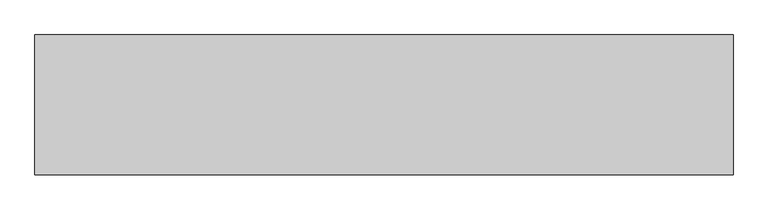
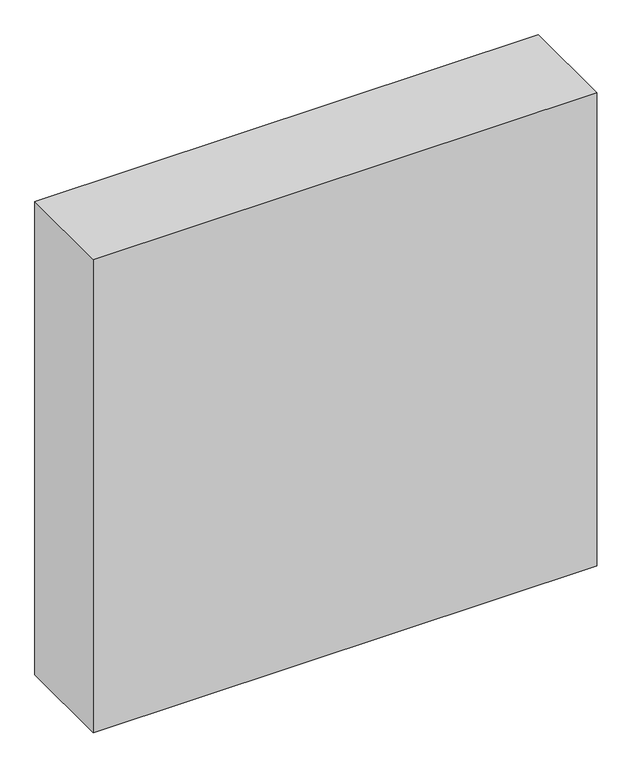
"""IFC4 building model written with IfcOpenShell, lengths in millimetres: proxy geometry, .Roupeiro de aço 2 : .Roupeiro de aço 1."""

import ifcopenshell
import ifcopenshell.guid

model = None  # the IFC model being written
_history = None  # IfcOwnerHistory: only IFC2X3 demands one
_inside = {}  # id of a spatial element -> (the spatial element, [elements in it])
_under = {}  # id of a project, library or spatial element -> (it, [spatial elements below it])
_declared = {}  # id of a project -> (the project, [libraries it declares])
_typed = {}  # id of a type object -> (the type object, [elements of that type])
_made_of = {}  # id of a material, layer set ... -> (it, [elements and type objects made of it])


def new_model(schema):
    """Start an empty IFC model of exactly this schema.

    Asked for "IFC4X3", IfcOpenShell would pick the latest addendum, in which some entities
    have other attributes; the version numbers below select the first issue.
    IFC2X3 requires an IfcOwnerHistory on every rooted entity: one is made here for all.
    """
    global model, _history
    if schema == "IFC4X3":
        model = ifcopenshell.file(schema_version=(4, 3, 0, 0))
    else:
        model = ifcopenshell.file(schema=schema)
    _inside.clear()
    _under.clear()
    _declared.clear()
    _typed.clear()
    _made_of.clear()
    _history = None
    if model.schema == "IFC2X3":
        org = make("IfcOrganization", Name="unknown")
        user = make(
            "IfcPersonAndOrganization",
            ThePerson=make("IfcPerson", FamilyName="unknown"),
            TheOrganization=org,
        )
        app = make(
            "IfcApplication",
            ApplicationDeveloper=org,
            Version="unknown",
            ApplicationFullName="unknown",
            ApplicationIdentifier="unknown",
        )
        _history = make(
            "IfcOwnerHistory",
            OwningUser=user,
            OwningApplication=app,
            ChangeAction="ADDED",
            CreationDate=0,
        )
    return model


def make(cls, **values):
    """One entity of the class cls with the attributes given. An attribute that is None is left unset."""
    return model.create_entity(
        cls, **{name: value for name, value in values.items() if value is not None}
    )


def rooted(cls, **values):
    """An entity with a GlobalId (a new one), such as an element, a storey or a relation."""
    return make(cls, GlobalId=ifcopenshell.guid.new(), OwnerHistory=_history, **values)


def si_unit(unit_type, name, prefix=None):
    """IfcSIUnit, for example si_unit("LENGTHUNIT", "METRE", prefix="MILLI")."""
    return make("IfcSIUnit", UnitType=unit_type, Prefix=prefix, Name=name)


def assignment(units):
    """IfcUnitAssignment: the units of a project."""
    return None if units is None else make("IfcUnitAssignment", Units=units)


def point(xyz):
    """IfcCartesianPoint."""
    return None if xyz is None else make("IfcCartesianPoint", Coordinates=xyz)


def direction(xyz):
    """IfcDirection."""
    return None if xyz is None else make("IfcDirection", DirectionRatios=xyz)


def frame(location, z_axis=None, x_axis=None):
    """IfcAxis2Placement3D, a coordinate frame: its origin and axes. An axis left out is left unset."""
    return make(
        "IfcAxis2Placement3D",
        Location=point(location),
        Axis=direction(z_axis),
        RefDirection=direction(x_axis),
    )


def origin():
    """The frame at (0, 0, 0) with its axes left unset."""
    return frame((0.0, 0.0, 0.0))


def origin_with_axes():
    """The frame at (0, 0, 0) with the z axis (0, 0, 1) and the x axis (1, 0, 0) written out."""
    return frame((0.0, 0.0, 0.0), z_axis=(0.0, 0.0, 1.0), x_axis=(1.0, 0.0, 0.0))


def place(relative_to, where):
    """IfcLocalPlacement: puts the frame where relative to a parent placement (None: the world)."""
    return make(
        "IfcLocalPlacement", PlacementRelTo=relative_to, RelativePlacement=where
    )


def context(
    kind, dimensions, precision=None, world=None, true_north=None, identifier=None
):
    """IfcGeometricRepresentationContext, for example the 3D "Model" context."""
    return make(
        "IfcGeometricRepresentationContext",
        ContextIdentifier=identifier,
        ContextType=kind,
        CoordinateSpaceDimension=dimensions,
        Precision=precision,
        WorldCoordinateSystem=world,
        TrueNorth=true_north,
    )


def project(units=None, contexts=None):
    """IfcProject with its units and contexts."""
    return rooted(
        "IfcProject",
        Name="project",
        RepresentationContexts=contexts,
        UnitsInContext=assignment(units),
    )


def spatial(cls, under=None, at=None, **own):
    """A site, building, storey or space (cls), placed at a placement, below another one or the project."""
    s = rooted(cls, ObjectPlacement=at, **own)
    if under is not None:
        _under.setdefault(under.id(), (under, []))[1].append(s)
    return s


def polyline(points):
    """IfcPolyline through the points."""
    return make("IfcPolyline", Points=[point(p) for p in points])


def outline(outer, holes=None, kind="AREA"):
    """IfcArbitraryClosedProfileDef: a profile drawn as a closed curve; with holes, ...WithVoids."""
    if holes is None:
        return make("IfcArbitraryClosedProfileDef", ProfileType=kind, OuterCurve=outer)
    return make(
        "IfcArbitraryProfileDefWithVoids",
        ProfileType=kind,
        OuterCurve=outer,
        InnerCurves=holes,
    )


def extrude(swept, where, along, depth):
    """IfcExtrudedAreaSolid: the profile swept, set in the frame where, extruded along a direction by depth."""
    return make(
        "IfcExtrudedAreaSolid",
        SweptArea=swept,
        Position=where,
        ExtrudedDirection=direction(along),
        Depth=depth,
    )


def shape(context_of_items, identifier, shape_type, items):
    """IfcShapeRepresentation: the items that make up one representation, for example the "Body"."""
    return make(
        "IfcShapeRepresentation",
        ContextOfItems=context_of_items,
        RepresentationIdentifier=identifier,
        RepresentationType=shape_type,
        Items=items,
    )


def source(mapping_origin, context_of_items, identifier, shape_type, items):
    """IfcRepresentationMap: a shape defined once, which mapped items show again and again."""
    return make(
        "IfcRepresentationMap",
        MappingOrigin=mapping_origin,
        MappedRepresentation=shape(context_of_items, identifier, shape_type, items),
    )


def transform(
    local_origin,
    x_axis=None,
    y_axis=None,
    z_axis=None,
    scale=None,
    scale2=None,
    scale3=None,
    uniform=True,
):
    """IfcCartesianTransformationOperator3D, or its non-uniform kind. x_axis, y_axis, z_axis: its Axis1, 2, 3."""
    if uniform:
        return make(
            "IfcCartesianTransformationOperator3D",
            Axis1=direction(x_axis),
            Axis2=direction(y_axis),
            LocalOrigin=point(local_origin),
            Scale=scale,
            Axis3=direction(z_axis),
        )
    return make(
        "IfcCartesianTransformationOperator3DnonUniform",
        Axis1=direction(x_axis),
        Axis2=direction(y_axis),
        LocalOrigin=point(local_origin),
        Scale=scale,
        Axis3=direction(z_axis),
        Scale2=scale2,
        Scale3=scale3,
    )


def mapped(mapping_source, mapping_target):
    """IfcMappedItem: shows the shape of a source again, moved by a transform."""
    return make(
        "IfcMappedItem", MappingSource=mapping_source, MappingTarget=mapping_target
    )


def made_of(thing, what):
    """Note that an element or type object is made of a material, layer set ...; save() writes the relation."""
    if what is not None:
        _made_of.setdefault(what.id(), (what, []))[1].append(thing)
    return thing


def element(
    cls,
    number,
    at=None,
    inside=None,
    cuts=None,
    type_object=None,
    material=None,
    context=None,
    identifier="Body",
    shape_type=None,
    held_by="IfcProductDefinitionShape",
    body=None,
    shapes=None,
    **own,
):
    """One element of the class cls, such as IfcWall. Its Tag is "e" and its number.

    at: its placement. inside: the storey or other place that contains it. cuts: it is an
    opening in that element (IfcRelVoidsElement). A single representation is given by context,
    identifier, shape_type and body (its items); several are given by shapes. held_by: the class
    of the entity that holds the representations. save() writes the other relations.
    """
    e = rooted(cls, Tag="e%d" % number, ObjectPlacement=at, **own)
    if body is not None:
        shapes = [shape(context, identifier, shape_type, body)]
    if shapes is not None:
        e.Representation = make(held_by, Representations=shapes)
    if inside is not None:
        _inside.setdefault(inside.id(), (inside, []))[1].append(e)
    if cuts is not None:
        rooted(
            "IfcRelVoidsElement", RelatingBuildingElement=cuts, RelatedOpeningElement=e
        )
    if type_object is not None:
        _typed.setdefault(type_object.id(), (type_object, []))[1].append(e)
    return made_of(e, material)


def aggregate(whole, parts):
    """IfcRelAggregates: a whole, such as a stair, and the parts it consists of."""
    return rooted("IfcRelAggregates", RelatingObject=whole, RelatedObjects=parts)


def save(model, path):
    """Write the relations noted so far, then the file.

    IfcRelAggregates (storeys below a building ...), IfcRelContainedInSpatialStructure (elements
    in a storey), IfcRelDefinesByType, IfcRelAssociatesMaterial and IfcRelDeclares: one each for
    every whole, place, type object, material and project.
    """
    for whole, parts in _under.values():
        aggregate(whole, parts)
    for where, things in _inside.values():
        rooted(
            "IfcRelContainedInSpatialStructure",
            RelatedElements=things,
            RelatingStructure=where,
        )
    for kind, things in _typed.values():
        rooted("IfcRelDefinesByType", RelatedObjects=things, RelatingType=kind)
    for what, things in _made_of.values():
        rooted("IfcRelAssociatesMaterial", RelatedObjects=things, RelatingMaterial=what)
    for by, libraries in _declared.values():
        rooted("IfcRelDeclares", RelatingContext=by, RelatedDefinitions=libraries)
    model.write(path)


def generic_models_336a8edc(model_context):
    return source(origin(), model_context, "Body", "SweptSolid", [
        extrude(outline(polyline([(-717.2739616, -20261.5253796), (-717.2739616, -20664.5871375), (-2727.2739616, -20664.5871375), (-2727.2739616, -20261.5253796), (-717.2739616, -20261.5253796)])), origin_with_axes(), (0.0, 0.0, 1.0), 1998.8102945),
    ])


if __name__ == "__main__":
    model = new_model("IFC4")
    model_context = context("Model", 3, world=origin())
    ifc_project = project(units=[si_unit("LENGTHUNIT", "METRE", prefix="MILLI")], contexts=[model_context])
    site = spatial("IfcSite", under=ifc_project)
    building = spatial("IfcBuilding", under=site)
    placement = place(None, origin())
    generic_models_shape = generic_models_336a8edc(model_context)
    element("IfcBuildingElementProxy", 1, Name=".Roupeiro de aço 2 : .Roupeiro de aço 1", ObjectType=".Roupeiro de aço 2 : .Roupeiro de aço 1", at=placement, inside=building, context=model_context, shape_type="MappedRepresentation", body=[
        mapped(generic_models_shape, transform((0.0, 0.0, 0.0), x_axis=(1.0, 0.0, 0.0), y_axis=(0.0, 1.0, 0.0), z_axis=(0.0, 0.0, 1.0))),
    ])
    save(model, "model.ifc")
